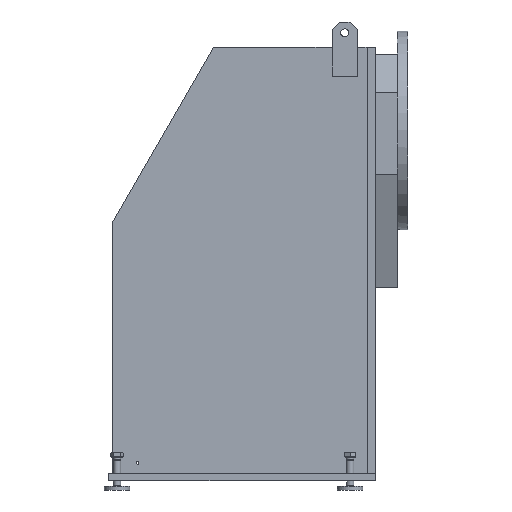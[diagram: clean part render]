
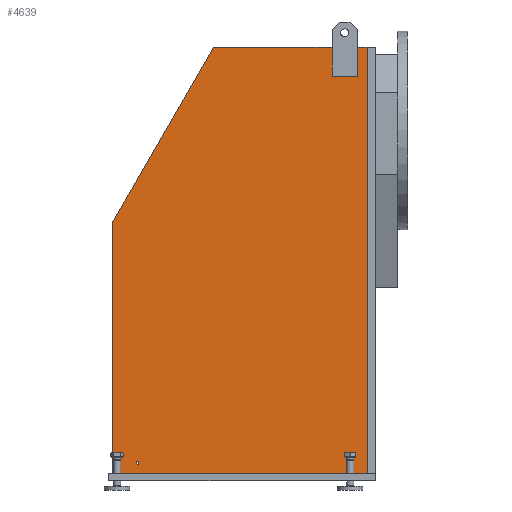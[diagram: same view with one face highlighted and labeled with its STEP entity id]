
A CAD part, front view. The second image highlights one B-rep face of the part: STEP entity #4639.
In plain terms, the highlighted planar face has unit normal (0, -1, 0).
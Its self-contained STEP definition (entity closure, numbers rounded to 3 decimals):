
#1256=CARTESIAN_POINT('',(-717.5,-240.,-950.));
#1257=VERTEX_POINT('',#1256);
#1320=CARTESIAN_POINT('',(-12.5,-240.,-950.));
#1321=VERTEX_POINT('',#1320);
#1328=CARTESIAN_POINT('',(-12.5,-240.,-950.));
#1329=DIRECTION('',(-1.0,0.0,0.0));
#1330=VECTOR('',#1329,705.);
#1331=LINE('',#1328,#1330);
#1332=EDGE_CURVE('',#1321,#1257,#1331,.T.);
#4062=CARTESIAN_POINT('',(-109.5,-240.,230.0));
#4063=VERTEX_POINT('',#4062);
#4064=CARTESIAN_POINT('',(-39.5,-240.,230.0));
#4065=VERTEX_POINT('',#4064);
#4098=CARTESIAN_POINT('',(-39.5,-240.,150.));
#4099=VERTEX_POINT('',#4098);
#4100=CARTESIAN_POINT('',(-109.5,-240.,150.));
#4101=VERTEX_POINT('',#4100);
#4102=CARTESIAN_POINT('',(-39.5,-240.,150.));
#4103=DIRECTION('',(-1.0,0.0,0.0));
#4104=VECTOR('',#4103,70.);
#4105=LINE('',#4102,#4104);
#4106=EDGE_CURVE('',#4099,#4101,#4105,.T.);
#4167=CARTESIAN_POINT('',(-109.5,-240.,150.));
#4168=DIRECTION('',(0.0,0.0,1.0));
#4169=VECTOR('',#4168,80.);
#4170=LINE('',#4167,#4169);
#4171=EDGE_CURVE('',#4101,#4063,#4170,.T.);
#4186=CARTESIAN_POINT('',(-39.5,-240.,230.0));
#4187=DIRECTION('',(0.0,0.0,-1.0));
#4188=VECTOR('',#4187,80.);
#4189=LINE('',#4186,#4188);
#4190=EDGE_CURVE('',#4065,#4099,#4189,.T.);
#4491=CARTESIAN_POINT('',(-644.176,-240.,-920.));
#4492=VERTEX_POINT('',#4491);
#4493=CARTESIAN_POINT('',(-647.5,-240.,-920.));
#4494=DIRECTION('',(0.0,1.0,0.0));
#4495=DIRECTION('',(-1.0,0.0,0.0));
#4496=AXIS2_PLACEMENT_3D('',#4493,#4494,#4495);
#4497=CIRCLE('',#4496,3.324);
#4498=EDGE_CURVE('',#4492,#4492,#4497,.T.);
#4589=CARTESIAN_POINT('',(-333.735,-240.,-399.028));
#4590=DIRECTION('',(0.0,1.0,0.0));
#4591=DIRECTION('',(-1.0,0.0,0.0));
#4592=AXIS2_PLACEMENT_3D('',#4589,#4590,#4591);
#4593=PLANE('',#4592);
#4594=ORIENTED_EDGE('',*,*,#4171,.T.);
#4595=CARTESIAN_POINT('',(-437.485,-240.,230.));
#4596=VERTEX_POINT('',#4595);
#4597=CARTESIAN_POINT('',(-437.485,-240.,230.));
#4598=DIRECTION('',(1.0,0.0,0.0));
#4599=VECTOR('',#4598,327.985);
#4600=LINE('',#4597,#4599);
#4601=EDGE_CURVE('',#4596,#4063,#4600,.T.);
#4602=ORIENTED_EDGE('',*,*,#4601,.F.);
#4603=CARTESIAN_POINT('',(-717.5,-240.,-255.));
#4604=VERTEX_POINT('',#4603);
#4605=CARTESIAN_POINT('',(-717.5,-240.,-255.));
#4606=DIRECTION('',(0.5,0.,0.866));
#4607=VECTOR('',#4606,560.03);
#4608=LINE('',#4605,#4607);
#4609=EDGE_CURVE('',#4604,#4596,#4608,.T.);
#4610=ORIENTED_EDGE('',*,*,#4609,.F.);
#4611=CARTESIAN_POINT('',(-717.5,-240.,-950.));
#4612=DIRECTION('',(0.0,0.0,1.0));
#4613=VECTOR('',#4612,695.0);
#4614=LINE('',#4611,#4613);
#4615=EDGE_CURVE('',#1257,#4604,#4614,.T.);
#4616=ORIENTED_EDGE('',*,*,#4615,.F.);
#4617=ORIENTED_EDGE('',*,*,#1332,.F.);
#4618=CARTESIAN_POINT('',(-12.5,-240.,230.));
#4619=VERTEX_POINT('',#4618);
#4620=CARTESIAN_POINT('',(-12.5,-240.,230.));
#4621=DIRECTION('',(0.0,0.0,-1.0));
#4622=VECTOR('',#4621,1180.0);
#4623=LINE('',#4620,#4622);
#4624=EDGE_CURVE('',#4619,#1321,#4623,.T.);
#4625=ORIENTED_EDGE('',*,*,#4624,.F.);
#4626=CARTESIAN_POINT('',(-39.5,-240.,230.0));
#4627=DIRECTION('',(1.0,0.0,0.0));
#4628=VECTOR('',#4627,27.);
#4629=LINE('',#4626,#4628);
#4630=EDGE_CURVE('',#4065,#4619,#4629,.T.);
#4631=ORIENTED_EDGE('',*,*,#4630,.F.);
#4632=ORIENTED_EDGE('',*,*,#4190,.T.);
#4633=ORIENTED_EDGE('',*,*,#4106,.T.);
#4634=EDGE_LOOP('',(#4594,#4602,#4610,#4616,#4617,#4625,#4631,#4632,#4633));
#4635=FACE_OUTER_BOUND('',#4634,.T.);
#4636=ORIENTED_EDGE('',*,*,#4498,.T.);
#4637=EDGE_LOOP('',(#4636));
#4638=FACE_BOUND('',#4637,.T.);
#4639=ADVANCED_FACE('',(#4635,#4638),#4593,.F.);
